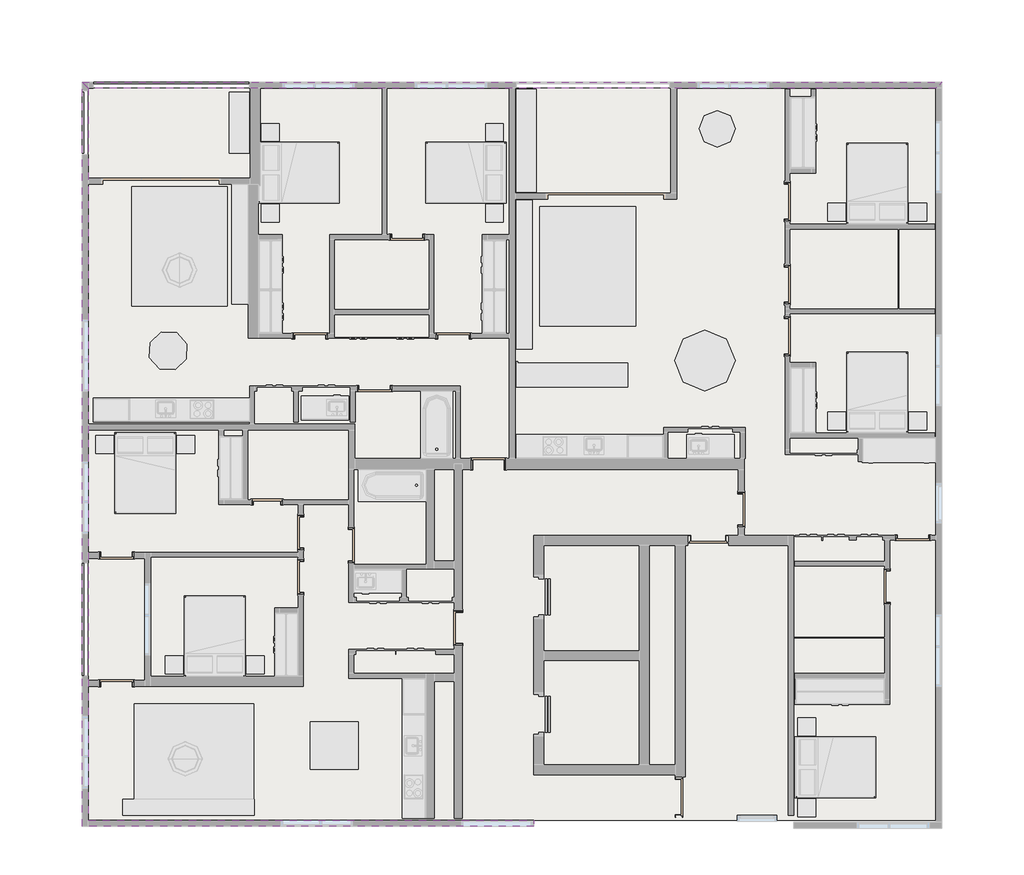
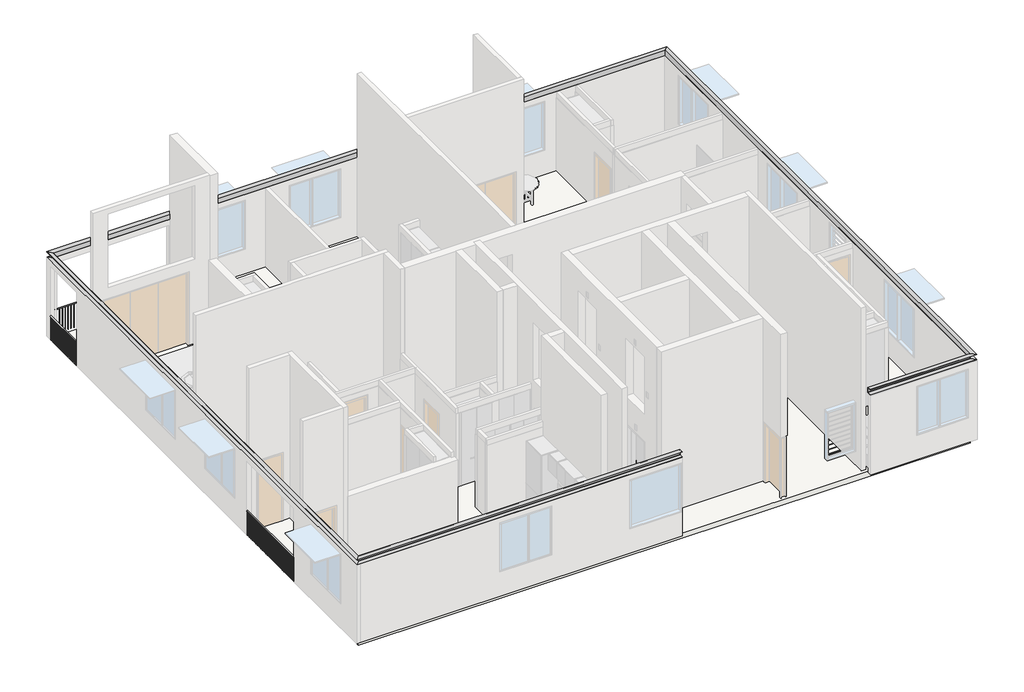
# One storey, part 4 of 5: 3 railings, 2 proxies, 1 slab.
"""IFC4 building model written with IfcOpenShell, lengths in millimetres."""

from ifc_helpers import new_model, si_unit, point, frame, frame_2d, origin, place, context, project, spatial, polyline, circle_curve, ellipse_curve, trimmed, segment, composite_curve, outline, extrude, faceted_brep, element, save
from ifc_brep_helpers import plane_surface, revolved_surface, advanced_brep

model = new_model("IFC4")

# Units and contexts
model_context = context("Model", 3, world=origin())
ifc_project = project(units=[si_unit("LENGTHUNIT", "METRE", prefix="MILLI")], contexts=[model_context])

# Site, building, storey
site = spatial("IfcSite", under=ifc_project)
building = spatial("IfcBuilding", under=site)
storey = spatial("IfcBuildingStorey", under=building, Name="9階", Elevation=54700.0)

# Proxies
placement = place(None, origin())
element("IfcBuildingElementProxy", 1, Name="Slab Edge_PFC'", ObjectType="Slab Edge_PFC'", at=placement, inside=storey, context=model_context, shape_type="AdvancedBrep", body=[
    advanced_brep(
    [(2519.6057353, 18560.0, 57800.0), (2519.6057353, 18560.0, 57600.0), (2369.6057353, 18710.0, 57600.0), (2369.6057353, 18710.0, 57612.0), (2501.6057353, 18578.0, 57612.0), (2513.6057353, 18566.0, 57624.0), (2513.6057353, 18566.0, 57776.0), (2501.6057353, 18578.0, 57788.0), (2369.6057353, 18710.0, 57788.0), (2369.6057353, 18710.0, 57800.0), (2519.6057353, 189.0898177, 57800.0), (2519.6057353, 189.0898177, 57600.0), (2369.6057353, 39.0898177, 57600.0), (2369.6057353, 39.0898177, 57612.0), (2501.6057353, 171.0898177, 57612.0), (2513.6057353, 183.0898177, 57624.0), (2513.6057353, 183.0898177, 57776.0), (2501.6057353, 171.0898177, 57788.0), (2369.6057353, 39.0898177, 57788.0), (2369.6057353, 39.0898177, 57800.0), (13694.6062665, 189.0898177, 57600.0), (13694.6062665, 189.0898177, 57800.0), (13694.6062665, 39.0898177, 57800.0), (13694.6062665, 39.0898177, 57788.0), (13694.6062665, 171.0898177, 57788.0), (13694.6062665, 183.0898177, 57776.0), (13694.6062665, 183.0898177, 57624.0), (13694.6062665, 171.0898177, 57612.0), (13694.6062665, 39.0898177, 57612.0), (13694.6062665, 39.0898177, 57600.0)],
    [
        (0, 1),
        (1, 2),
        (2, 3),
        (3, 4),
        (4, 5, ellipse_curve(frame((2501.6057353, 18578.0, 57624.0), z_axis=(-0.7071067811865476, -0.7071067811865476, 0.0), x_axis=(0.7071067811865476, -0.7071067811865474, 0.0)), 16.9705627, 12.0)),
        (5, 6),
        (6, 7, ellipse_curve(frame((2501.6057353, 18578.0, 57776.0), z_axis=(-0.7071067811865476, -0.7071067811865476, 0.0), x_axis=(0.7071067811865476, -0.7071067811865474, 0.0)), 16.9705627, 12.0)),
        (7, 8),
        (8, 9),
        (9, 0),
        (0, 10),
        (10, 11),
        (11, 1),
        (11, 12),
        (12, 2),
        (12, 13),
        (13, 3),
        (13, 14),
        (14, 4),
        (14, 15, ellipse_curve(frame((2501.6057353, 171.0898177, 57624.0), z_axis=(0.7071067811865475, -0.7071067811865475, 0.0), x_axis=(-0.7071067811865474, -0.7071067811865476, 0.0)), 16.9705627, 12.0)),
        (15, 5),
        (15, 16),
        (16, 6),
        (16, 17, ellipse_curve(frame((2501.6057353, 171.0898177, 57776.0), z_axis=(0.7071067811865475, -0.7071067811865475, 0.0), x_axis=(-0.7071067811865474, -0.7071067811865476, 0.0)), 16.9705627, 12.0)),
        (17, 7),
        (17, 18),
        (18, 8),
        (18, 19),
        (19, 9),
        (19, 10),
        (20, 21),
        (21, 22),
        (22, 23),
        (23, 24),
        (24, 25, circle_curve(frame((13694.6062665, 171.0898177, 57776.0), z_axis=(-1.0, 0.0, 0.0), x_axis=(0.0, -1.0, 0.0)), 12.0)),
        (25, 26),
        (26, 27, circle_curve(frame((13694.6062665, 171.0898177, 57624.0), z_axis=(-1.0, 0.0, 0.0), x_axis=(0.0, -1.0, 0.0)), 12.0)),
        (27, 28),
        (28, 29),
        (29, 20),
        (10, 21),
        (20, 11),
        (29, 12),
        (28, 13),
        (27, 14),
        (26, 15),
        (25, 16),
        (24, 17),
        (23, 18),
        (22, 19),
    ],
    [
        plane_surface(frame((2519.6057353, 18560.0, 57800.0), z_axis=(0.7071067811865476, 0.7071067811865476, 0.0), x_axis=(-0.7071067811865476, 0.7071067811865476, 0.0))),
        plane_surface(frame((2519.6057353, 18560.0, 57800.0), z_axis=(1.0, 0.0, 0.0), x_axis=(0.0, -1.0, 0.0))),
        plane_surface(frame((2519.6057353, 18560.0, 57600.0), z_axis=(0.0, 0.0, -1.0), x_axis=(0.0, -1.0, 0.0))),
        plane_surface(frame((2369.6057353, 18710.0, 57600.0), z_axis=(-1.0, 0.0, 0.0), x_axis=(0.0, -1.0, 0.0))),
        plane_surface(frame((2369.6057353, 18710.0, 57612.0), z_axis=(0.0, 0.0, 1.0), x_axis=(0.0, -1.0, 0.0))),
        revolved_surface(polyline([(2489.6057353, 159.08981773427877, 57624.0), (2489.6057353, 18589.999999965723, 57624.0)]), (2501.6057353, 18560.0, 57624.0), (0.0, -1.0, 0.0)),
        plane_surface(frame((2513.6057353, 18566.0, 57624.0), z_axis=(-1.0, 0.0, 0.0), x_axis=(0.0, -1.0, 0.0))),
        revolved_surface(polyline([(2489.6057353, 159.08981773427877, 57776.0), (2489.6057353, 18589.999999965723, 57776.0)]), (2501.6057353, 18560.0, 57776.0), (0.0, -1.0, 0.0)),
        plane_surface(frame((2501.6057353, 18578.0, 57788.0), z_axis=(0.0, 0.0, -1.0), x_axis=(0.0, -1.0, 0.0))),
        plane_surface(frame((2369.6057353, 18710.0, 57788.0), z_axis=(-1.0, 0.0, 0.0), x_axis=(0.0, -1.0, 0.0))),
        plane_surface(frame((2369.6057353, 18710.0, 57800.0), z_axis=(0.0, 0.0, 1.0), x_axis=(0.0, -1.0, 0.0))),
        plane_surface(frame((13694.6062665, 189.0898177, 57550.0), z_axis=(1.0, 0.0, 0.0), x_axis=(0.0, 1.0, 0.0))),
        plane_surface(frame((2519.6057353, 189.0898177, 57800.0), z_axis=(0.0, 1.0, 0.0), x_axis=(1.0, 0.0, 0.0))),
        plane_surface(frame((2519.6057353, 189.0898177, 57600.0), z_axis=(0.0, 0.0, -1.0), x_axis=(1.0, 0.0, 0.0))),
        plane_surface(frame((2369.6057353, 39.0898177, 57600.0), z_axis=(0.0, -1.0, 0.0), x_axis=(1.0, 0.0, 0.0))),
        plane_surface(frame((2369.6057353, 39.0898177, 57612.0), z_axis=(0.0, 0.0, 1.0), x_axis=(1.0, 0.0, 0.0))),
        revolved_surface(polyline([(13694.6062665, 159.0898177, 57624.0), (2489.6057353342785, 159.0898177, 57624.0)]), (2519.6057353, 171.0898177, 57624.0), (1.0, 0.0, 0.0)),
        plane_surface(frame((2513.6057353, 183.0898177, 57624.0), z_axis=(0.0, -1.0, 0.0), x_axis=(1.0, 0.0, 0.0))),
        revolved_surface(polyline([(13694.6062665, 159.0898177, 57776.0), (2489.6057353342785, 159.0898177, 57776.0)]), (2519.6057353, 171.0898177, 57776.0), (1.0, 0.0, 0.0)),
        plane_surface(frame((2501.6057353, 171.0898177, 57788.0), z_axis=(0.0, 0.0, -1.0), x_axis=(1.0, 0.0, 0.0))),
        plane_surface(frame((2369.6057353, 39.0898177, 57788.0), z_axis=(0.0, -1.0, 0.0), x_axis=(1.0, 0.0, 0.0))),
        plane_surface(frame((2369.6057353, 39.0898177, 57800.0), z_axis=(0.0, 0.0, 1.0), x_axis=(1.0, 0.0, 0.0))),
    ],
    [
        (0, [[1, 2, 3, 4, 5, 6, 7, 8, 9, 10]]),
        (1, [[-1, 11, 12, 13]]),
        (2, [[-2, -13, 14, 15]]),
        (3, [[-3, -15, 16, 17]]),
        (4, [[-4, -17, 18, 19]]),
        (5, [[-5, -19, 20, 21]]),
        (6, [[-6, -21, 22, 23]]),
        (7, [[-7, -23, 24, 25]]),
        (8, [[-8, -25, 26, 27]]),
        (9, [[-9, -27, 28, 29]]),
        (10, [[-10, -29, 30, -11]]),
        (11, [[31, 32, 33, 34, 35, 36, 37, 38, 39, 40]]),
        (12, [[-12, 41, -31, 42]]),
        (13, [[-14, -42, -40, 43]]),
        (14, [[-16, -43, -39, 44]]),
        (15, [[-18, -44, -38, 45]]),
        (16, [[-20, -45, -37, 46]]),
        (17, [[-22, -46, -36, 47]]),
        (18, [[-24, -47, -35, 48]]),
        (19, [[-26, -48, -34, 49]]),
        (20, [[-28, -49, -33, 50]]),
        (21, [[-30, -50, -32, -41]]),
    ],
),
    advanced_brep(
    [(23783.6171203, 18560.0, 57600.0), (23783.6171203, 18560.0, 57800.0), (23933.6171203, 18710.0, 57800.0), (23933.6171203, 18710.0, 57788.0), (23801.6171203, 18578.0, 57788.0), (23789.6171203, 18566.0, 57776.0), (23789.6171203, 18566.0, 57624.0), (23801.6171203, 18578.0, 57612.0), (23933.6171203, 18710.0, 57612.0), (23933.6171203, 18710.0, 57600.0), (23783.6171203, 189.0898177, 57600.0), (23783.6171203, 189.0898177, 57800.0), (23933.6171203, 39.0898177, 57600.0), (23933.6171203, 39.0898177, 57612.0), (23801.6171203, 171.0898177, 57612.0), (23789.6171203, 183.0898177, 57624.0), (23789.6171203, 183.0898177, 57776.0), (23801.6171203, 171.0898177, 57788.0), (23933.6171203, 39.0898177, 57788.0), (23933.6171203, 39.0898177, 57800.0), (20219.6062665, 189.0898177, 57800.0), (20219.6062665, 189.0898177, 57600.0), (20219.6062665, 39.0898177, 57600.0), (20219.6062665, 39.0898177, 57612.0), (20219.6062665, 171.0898177, 57612.0), (20219.6062665, 183.0898177, 57624.0), (20219.6062665, 183.0898177, 57776.0), (20219.6062665, 171.0898177, 57788.0), (20219.6062665, 39.0898177, 57788.0), (20219.6062665, 39.0898177, 57800.0)],
    [
        (0, 1),
        (1, 2),
        (2, 3),
        (3, 4),
        (4, 5, ellipse_curve(frame((23801.6171203, 18578.0, 57776.0), z_axis=(0.7071067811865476, -0.7071067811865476, 0.0), x_axis=(0.7071067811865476, 0.7071067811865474, 0.0)), 16.9705627, 12.0)),
        (5, 6),
        (6, 7, ellipse_curve(frame((23801.6171203, 18578.0, 57624.0), z_axis=(0.7071067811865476, -0.7071067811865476, 0.0), x_axis=(0.7071067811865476, 0.7071067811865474, 0.0)), 16.9705627, 12.0)),
        (7, 8),
        (8, 9),
        (9, 0),
        (10, 11),
        (11, 1),
        (0, 10),
        (12, 10),
        (9, 12),
        (13, 12),
        (8, 13),
        (14, 13),
        (7, 14),
        (15, 14, ellipse_curve(frame((23801.6171203, 171.0898177, 57624.0), z_axis=(-0.7071067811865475, -0.7071067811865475, 0.0), x_axis=(-0.7071067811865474, 0.7071067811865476, 0.0)), 16.9705627, 12.0)),
        (6, 15),
        (16, 15),
        (5, 16),
        (17, 16, ellipse_curve(frame((23801.6171203, 171.0898177, 57776.0), z_axis=(-0.7071067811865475, -0.7071067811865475, 0.0), x_axis=(-0.7071067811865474, 0.7071067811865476, 0.0)), 16.9705627, 12.0)),
        (4, 17),
        (18, 17),
        (3, 18),
        (19, 18),
        (2, 19),
        (11, 19),
        (20, 21),
        (21, 22),
        (22, 23),
        (23, 24),
        (24, 25, circle_curve(frame((20219.6062665, 171.0898177, 57624.0), z_axis=(1.0, 0.0, 0.0), x_axis=(0.0, -1.0, 0.0)), 12.0)),
        (25, 26),
        (26, 27, circle_curve(frame((20219.6062665, 171.0898177, 57776.0), z_axis=(1.0, 0.0, 0.0), x_axis=(0.0, -1.0, 0.0)), 12.0)),
        (27, 28),
        (28, 29),
        (29, 20),
        (10, 21),
        (20, 11),
        (12, 22),
        (13, 23),
        (14, 24),
        (15, 25),
        (16, 26),
        (17, 27),
        (18, 28),
        (19, 29),
    ],
    [
        plane_surface(frame((23783.6171203, 18560.0, 57800.0), z_axis=(-0.7071067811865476, 0.7071067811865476, 0.0), x_axis=(-0.7071067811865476, -0.7071067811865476, 0.0))),
        plane_surface(frame((23783.6171203, 189.0898177, 57800.0), z_axis=(-1.0, 0.0, 0.0), x_axis=(0.0, 1.0, 0.0))),
        plane_surface(frame((23783.6171203, 189.0898177, 57600.0), z_axis=(0.0, 0.0, -1.0), x_axis=(0.0, 1.0, 0.0))),
        plane_surface(frame((23933.6171203, 39.0898177, 57600.0), z_axis=(1.0, 0.0, 0.0), x_axis=(0.0, 1.0, 0.0))),
        plane_surface(frame((23933.6171203, 39.0898177, 57612.0), z_axis=(0.0, 0.0, 1.0), x_axis=(0.0, 1.0, 0.0))),
        revolved_surface(polyline([(23813.6171203, 18589.999999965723, 57624.0), (23813.6171203, 159.0898177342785, 57624.0)]), (23801.6171203, 189.0898177, 57624.0), (0.0, 1.0, 0.0)),
        plane_surface(frame((23789.6171203, 183.0898177, 57624.0), z_axis=(1.0, 0.0, 0.0), x_axis=(0.0, 1.0, 0.0))),
        revolved_surface(polyline([(23813.6171203, 18589.999999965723, 57776.0), (23813.6171203, 159.0898177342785, 57776.0)]), (23801.6171203, 189.0898177, 57776.0), (0.0, 1.0, 0.0)),
        plane_surface(frame((23801.6171203, 171.0898177, 57788.0), z_axis=(0.0, 0.0, -1.0), x_axis=(0.0, 1.0, 0.0))),
        plane_surface(frame((23933.6171203, 39.0898177, 57788.0), z_axis=(1.0, 0.0, 0.0), x_axis=(0.0, 1.0, 0.0))),
        plane_surface(frame((23933.6171203, 39.0898177, 57800.0), z_axis=(0.0, 0.0, 1.0), x_axis=(0.0, 1.0, 0.0))),
        plane_surface(frame((20219.6062665, 189.0898177, 57550.0), z_axis=(-1.0, 0.0, 0.0), x_axis=(0.0, 1.0, 0.0))),
        plane_surface(frame((20219.6062665, 189.0898177, 57800.0), z_axis=(0.0, 1.0, 0.0), x_axis=(1.0, 0.0, 0.0))),
        plane_surface(frame((20219.6062665, 189.0898177, 57600.0), z_axis=(0.0, 0.0, -1.0), x_axis=(1.0, 0.0, 0.0))),
        plane_surface(frame((20219.6062665, 39.0898177, 57600.0), z_axis=(0.0, -1.0, 0.0), x_axis=(1.0, 0.0, 0.0))),
        plane_surface(frame((20219.6062665, 39.0898177, 57612.0), z_axis=(0.0, 0.0, 1.0), x_axis=(1.0, 0.0, 0.0))),
        revolved_surface(polyline([(23813.617120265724, 159.0898177, 57624.0), (20219.6062665, 159.0898177, 57624.0)]), (20219.6062665, 171.0898177, 57624.0), (1.0, 0.0, 0.0)),
        plane_surface(frame((20219.6062665, 183.0898177, 57624.0), z_axis=(0.0, -1.0, 0.0), x_axis=(1.0, 0.0, 0.0))),
        revolved_surface(polyline([(23813.617120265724, 159.0898177, 57776.0), (20219.6062665, 159.0898177, 57776.0)]), (20219.6062665, 171.0898177, 57776.0), (1.0, 0.0, 0.0)),
        plane_surface(frame((20219.6062665, 171.0898177, 57788.0), z_axis=(0.0, 0.0, -1.0), x_axis=(1.0, 0.0, 0.0))),
        plane_surface(frame((20219.6062665, 39.0898177, 57788.0), z_axis=(0.0, -1.0, 0.0), x_axis=(1.0, 0.0, 0.0))),
        plane_surface(frame((20219.6062665, 39.0898177, 57800.0), z_axis=(0.0, 0.0, 1.0), x_axis=(1.0, 0.0, 0.0))),
    ],
    [
        (0, [[1, 2, 3, 4, 5, 6, 7, 8, 9, 10]]),
        (1, [[11, 12, -1, 13]]),
        (2, [[14, -13, -10, 15]]),
        (3, [[16, -15, -9, 17]]),
        (4, [[18, -17, -8, 19]]),
        (5, [[20, -19, -7, 21]]),
        (6, [[22, -21, -6, 23]]),
        (7, [[24, -23, -5, 25]]),
        (8, [[26, -25, -4, 27]]),
        (9, [[28, -27, -3, 29]]),
        (10, [[30, -29, -2, -12]]),
        (11, [[31, 32, 33, 34, 35, 36, 37, 38, 39, 40]]),
        (12, [[-11, 41, -31, 42]]),
        (13, [[-14, 43, -32, -41]]),
        (14, [[-16, 44, -33, -43]]),
        (15, [[-18, 45, -34, -44]]),
        (16, [[-20, 46, -35, -45]]),
        (17, [[-22, 47, -36, -46]]),
        (18, [[-24, 48, -37, -47]]),
        (19, [[-26, 49, -38, -48]]),
        (20, [[-28, 50, -39, -49]]),
        (21, [[-30, -42, -40, -50]]),
    ],
),
])
element("IfcBuildingElementProxy", 2, Name="Slab Edge_PFC'", ObjectType="Slab Edge_PFC'", at=placement, inside=storey, context=model_context, shape_type="AdvancedBrep", body=[
    advanced_brep(
    [(23783.6171203, 18560.0, 57800.0), (23783.6171203, 18560.0, 57600.0), (23933.6171203, 18710.0, 57600.0), (23933.6171203, 18710.0, 57612.0), (23801.6171203, 18578.0, 57612.0), (23789.6171203, 18566.0, 57624.0), (23789.6171203, 18566.0, 57776.0), (23801.6171203, 18578.0, 57788.0), (23933.6171203, 18710.0, 57788.0), (23933.6171203, 18710.0, 57800.0), (2519.6057353, 18560.0, 57800.0), (2369.6057353, 18710.0, 57800.0), (2369.6057353, 18710.0, 57788.0), (2501.6057353, 18578.0, 57788.0), (2513.6057353, 18566.0, 57776.0), (2513.6057353, 18566.0, 57624.0), (2501.6057353, 18578.0, 57612.0), (2369.6057353, 18710.0, 57612.0), (2369.6057353, 18710.0, 57600.0), (2519.6057353, 18560.0, 57600.0)],
    [
        (0, 1),
        (1, 2),
        (2, 3),
        (3, 4),
        (4, 5, ellipse_curve(frame((23801.6171203, 18578.0, 57624.0), z_axis=(-0.7071067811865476, 0.7071067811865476, 0.0), x_axis=(-0.7071067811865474, -0.7071067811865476, 0.0)), 16.9705627, 12.0)),
        (5, 6),
        (6, 7, ellipse_curve(frame((23801.6171203, 18578.0, 57776.0), z_axis=(-0.7071067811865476, 0.7071067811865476, 0.0), x_axis=(-0.7071067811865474, -0.7071067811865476, 0.0)), 16.9705627, 12.0)),
        (7, 8),
        (8, 9),
        (9, 0),
        (10, 11),
        (11, 12),
        (12, 13),
        (13, 14, ellipse_curve(frame((2501.6057353, 18578.0, 57776.0), z_axis=(0.7071067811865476, 0.7071067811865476, 0.0), x_axis=(-0.7071067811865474, 0.7071067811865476, 0.0)), 16.9705627, 12.0)),
        (14, 15),
        (15, 16, ellipse_curve(frame((2501.6057353, 18578.0, 57624.0), z_axis=(0.7071067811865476, 0.7071067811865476, 0.0), x_axis=(-0.7071067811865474, 0.7071067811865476, 0.0)), 16.9705627, 12.0)),
        (16, 17),
        (17, 18),
        (18, 19),
        (19, 10),
        (0, 10),
        (19, 1),
        (18, 2),
        (17, 3),
        (16, 4),
        (15, 5),
        (14, 6),
        (13, 7),
        (12, 8),
        (11, 9),
    ],
    [
        plane_surface(frame((23783.6171203, 18560.0, 57800.0), z_axis=(0.7071067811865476, -0.7071067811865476, 0.0), x_axis=(0.7071067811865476, 0.7071067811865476, 0.0))),
        plane_surface(frame((2519.6057353, 18560.0, 57800.0), z_axis=(-0.7071067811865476, -0.7071067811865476, 0.0), x_axis=(0.7071067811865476, -0.7071067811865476, 0.0))),
        plane_surface(frame((23783.6171203, 18560.0, 57800.0), z_axis=(0.0, -1.0, 0.0), x_axis=(-1.0, 0.0, 0.0))),
        plane_surface(frame((23783.6171203, 18560.0, 57600.0), z_axis=(0.0, 0.0, -1.0), x_axis=(-1.0, 0.0, 0.0))),
        plane_surface(frame((23933.6171203, 18710.0, 57600.0), z_axis=(0.0, 1.0, 0.0), x_axis=(-1.0, 0.0, 0.0))),
        plane_surface(frame((23933.6171203, 18710.0, 57612.0), z_axis=(0.0, 0.0, 1.0), x_axis=(-1.0, 0.0, 0.0))),
        revolved_surface(polyline([(2489.6057353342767, 18590.0, 57624.0), (23813.617120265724, 18590.0, 57624.0)]), (23783.6171203, 18578.0, 57624.0), (-1.0, 0.0, 0.0)),
        plane_surface(frame((23789.6171203, 18566.0, 57624.0), z_axis=(0.0, 1.0, 0.0), x_axis=(-1.0, 0.0, 0.0))),
        revolved_surface(polyline([(2489.6057353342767, 18590.0, 57776.0), (23813.617120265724, 18590.0, 57776.0)]), (23783.6171203, 18578.0, 57776.0), (-1.0, 0.0, 0.0)),
        plane_surface(frame((23801.6171203, 18578.0, 57788.0), z_axis=(0.0, 0.0, -1.0), x_axis=(-1.0, 0.0, 0.0))),
        plane_surface(frame((23933.6171203, 18710.0, 57788.0), z_axis=(0.0, 1.0, 0.0), x_axis=(-1.0, 0.0, 0.0))),
        plane_surface(frame((23933.6171203, 18710.0, 57800.0), z_axis=(0.0, 0.0, 1.0), x_axis=(-1.0, 0.0, 0.0))),
    ],
    [
        (0, [[1, 2, 3, 4, 5, 6, 7, 8, 9, 10]]),
        (1, [[11, 12, 13, 14, 15, 16, 17, 18, 19, 20]]),
        (2, [[-1, 21, -20, 22]]),
        (3, [[-2, -22, -19, 23]]),
        (4, [[-3, -23, -18, 24]]),
        (5, [[-4, -24, -17, 25]]),
        (6, [[-5, -25, -16, 26]]),
        (7, [[-6, -26, -15, 27]]),
        (8, [[-7, -27, -14, 28]]),
        (9, [[-8, -28, -13, 29]]),
        (10, [[-9, -29, -12, 30]]),
        (11, [[-10, -30, -11, -21]]),
    ],
),
])

# Railings
element("IfcRailing", 3, ObjectType="900mm", at=placement, inside=storey, context=model_context, shape_type="SweptSolid", body=[
    extrude(outline(composite_curve([segment(trimmed(circle_curve(frame_2d((18700.0, 55580.0)), 20.0), [point((18680.0, 55580.0))], [point((18720.0, 55580.0))], False, "CARTESIAN"), True, "CONTINUOUS"), segment(trimmed(circle_curve(frame_2d((18700.0, 55580.0)), 20.0), [point((18720.0, 55580.0))], [point((18680.0, 55580.0))], False, "CARTESIAN"), True, "CONTINUOUS")], self_intersect=False)), frame((2614.6057353, 0.0, 0.0), z_axis=(1.0, 0.0, 0.0), x_axis=(0.0, 1.0, 0.0)), (0.0, 0.0, 1.0), 3940.0588639),
    extrude(outline(polyline([(6509.6057353, 18695.0), (6509.6057353, 18705.0), (6519.6057353, 18705.0), (6519.6057353, 18695.0), (6509.6057353, 18695.0)])), frame((0.0, 0.0, 54700.0), z_axis=(0.0, 0.0, 1.0), x_axis=(1.0, 0.0, 0.0)), (0.0, 0.0, 1.0), 860.0),
    extrude(outline(polyline([(6409.6057353, 18695.0), (6409.6057353, 18705.0), (6419.6057353, 18705.0), (6419.6057353, 18695.0), (6409.6057353, 18695.0)])), frame((0.0, 0.0, 54700.0), z_axis=(0.0, 0.0, 1.0), x_axis=(1.0, 0.0, 0.0)), (0.0, 0.0, 1.0), 860.0),
    extrude(outline(polyline([(6309.6057353, 18695.0), (6309.6057353, 18705.0), (6319.6057353, 18705.0), (6319.6057353, 18695.0), (6309.6057353, 18695.0)])), frame((0.0, 0.0, 54700.0), z_axis=(0.0, 0.0, 1.0), x_axis=(1.0, 0.0, 0.0)), (0.0, 0.0, 1.0), 860.0),
    extrude(outline(polyline([(6209.6057353, 18695.0), (6209.6057353, 18705.0), (6219.6057353, 18705.0), (6219.6057353, 18695.0), (6209.6057353, 18695.0)])), frame((0.0, 0.0, 54700.0), z_axis=(0.0, 0.0, 1.0), x_axis=(1.0, 0.0, 0.0)), (0.0, 0.0, 1.0), 860.0),
    extrude(outline(polyline([(6109.6057353, 18695.0), (6109.6057353, 18705.0), (6119.6057353, 18705.0), (6119.6057353, 18695.0), (6109.6057353, 18695.0)])), frame((0.0, 0.0, 54700.0), z_axis=(0.0, 0.0, 1.0), x_axis=(1.0, 0.0, 0.0)), (0.0, 0.0, 1.0), 860.0),
    extrude(outline(polyline([(6009.6057353, 18695.0), (6009.6057353, 18705.0), (6019.6057353, 18705.0), (6019.6057353, 18695.0), (6009.6057353, 18695.0)])), frame((0.0, 0.0, 54700.0), z_axis=(0.0, 0.0, 1.0), x_axis=(1.0, 0.0, 0.0)), (0.0, 0.0, 1.0), 860.0),
    extrude(outline(polyline([(5909.6057353, 18695.0), (5909.6057353, 18705.0), (5919.6057353, 18705.0), (5919.6057353, 18695.0), (5909.6057353, 18695.0)])), frame((0.0, 0.0, 54700.0), z_axis=(0.0, 0.0, 1.0), x_axis=(1.0, 0.0, 0.0)), (0.0, 0.0, 1.0), 860.0),
    extrude(outline(polyline([(5809.6057353, 18695.0), (5809.6057353, 18705.0), (5819.6057353, 18705.0), (5819.6057353, 18695.0), (5809.6057353, 18695.0)])), frame((0.0, 0.0, 54700.0), z_axis=(0.0, 0.0, 1.0), x_axis=(1.0, 0.0, 0.0)), (0.0, 0.0, 1.0), 860.0),
    extrude(outline(polyline([(5709.6057353, 18695.0), (5709.6057353, 18705.0), (5719.6057353, 18705.0), (5719.6057353, 18695.0), (5709.6057353, 18695.0)])), frame((0.0, 0.0, 54700.0), z_axis=(0.0, 0.0, 1.0), x_axis=(1.0, 0.0, 0.0)), (0.0, 0.0, 1.0), 860.0),
    extrude(outline(polyline([(5609.6057353, 18695.0), (5609.6057353, 18705.0), (5619.6057353, 18705.0), (5619.6057353, 18695.0), (5609.6057353, 18695.0)])), frame((0.0, 0.0, 54700.0), z_axis=(0.0, 0.0, 1.0), x_axis=(1.0, 0.0, 0.0)), (0.0, 0.0, 1.0), 860.0),
    extrude(outline(polyline([(5509.6057353, 18695.0), (5509.6057353, 18705.0), (5519.6057353, 18705.0), (5519.6057353, 18695.0), (5509.6057353, 18695.0)])), frame((0.0, 0.0, 54700.0), z_axis=(0.0, 0.0, 1.0), x_axis=(1.0, 0.0, 0.0)), (0.0, 0.0, 1.0), 860.0),
    extrude(outline(polyline([(5409.6057353, 18695.0), (5409.6057353, 18705.0), (5419.6057353, 18705.0), (5419.6057353, 18695.0), (5409.6057353, 18695.0)])), frame((0.0, 0.0, 54700.0), z_axis=(0.0, 0.0, 1.0), x_axis=(1.0, 0.0, 0.0)), (0.0, 0.0, 1.0), 860.0),
    extrude(outline(polyline([(5309.6057353, 18695.0), (5309.6057353, 18705.0), (5319.6057353, 18705.0), (5319.6057353, 18695.0), (5309.6057353, 18695.0)])), frame((0.0, 0.0, 54700.0), z_axis=(0.0, 0.0, 1.0), x_axis=(1.0, 0.0, 0.0)), (0.0, 0.0, 1.0), 860.0),
    extrude(outline(polyline([(5209.6057353, 18695.0), (5209.6057353, 18705.0), (5219.6057353, 18705.0), (5219.6057353, 18695.0), (5209.6057353, 18695.0)])), frame((0.0, 0.0, 54700.0), z_axis=(0.0, 0.0, 1.0), x_axis=(1.0, 0.0, 0.0)), (0.0, 0.0, 1.0), 860.0),
    extrude(outline(polyline([(5109.6057353, 18695.0), (5109.6057353, 18705.0), (5119.6057353, 18705.0), (5119.6057353, 18695.0), (5109.6057353, 18695.0)])), frame((0.0, 0.0, 54700.0), z_axis=(0.0, 0.0, 1.0), x_axis=(1.0, 0.0, 0.0)), (0.0, 0.0, 1.0), 860.0),
    extrude(outline(polyline([(5009.6057353, 18695.0), (5009.6057353, 18705.0), (5019.6057353, 18705.0), (5019.6057353, 18695.0), (5009.6057353, 18695.0)])), frame((0.0, 0.0, 54700.0), z_axis=(0.0, 0.0, 1.0), x_axis=(1.0, 0.0, 0.0)), (0.0, 0.0, 1.0), 860.0),
    extrude(outline(polyline([(4909.6057353, 18695.0), (4909.6057353, 18705.0), (4919.6057353, 18705.0), (4919.6057353, 18695.0), (4909.6057353, 18695.0)])), frame((0.0, 0.0, 54700.0), z_axis=(0.0, 0.0, 1.0), x_axis=(1.0, 0.0, 0.0)), (0.0, 0.0, 1.0), 860.0),
    extrude(outline(polyline([(4809.6057353, 18695.0), (4809.6057353, 18705.0), (4819.6057353, 18705.0), (4819.6057353, 18695.0), (4809.6057353, 18695.0)])), frame((0.0, 0.0, 54700.0), z_axis=(0.0, 0.0, 1.0), x_axis=(1.0, 0.0, 0.0)), (0.0, 0.0, 1.0), 860.0),
    extrude(outline(polyline([(4709.6057353, 18695.0), (4709.6057353, 18705.0), (4719.6057353, 18705.0), (4719.6057353, 18695.0), (4709.6057353, 18695.0)])), frame((0.0, 0.0, 54700.0), z_axis=(0.0, 0.0, 1.0), x_axis=(1.0, 0.0, 0.0)), (0.0, 0.0, 1.0), 860.0),
    extrude(outline(polyline([(4609.6057353, 18695.0), (4609.6057353, 18705.0), (4619.6057353, 18705.0), (4619.6057353, 18695.0), (4609.6057353, 18695.0)])), frame((0.0, 0.0, 54700.0), z_axis=(0.0, 0.0, 1.0), x_axis=(1.0, 0.0, 0.0)), (0.0, 0.0, 1.0), 860.0),
    extrude(outline(polyline([(4509.6057353, 18695.0), (4509.6057353, 18705.0), (4519.6057353, 18705.0), (4519.6057353, 18695.0), (4509.6057353, 18695.0)])), frame((0.0, 0.0, 54700.0), z_axis=(0.0, 0.0, 1.0), x_axis=(1.0, 0.0, 0.0)), (0.0, 0.0, 1.0), 860.0),
    extrude(outline(polyline([(4409.6057353, 18695.0), (4409.6057353, 18705.0), (4419.6057353, 18705.0), (4419.6057353, 18695.0), (4409.6057353, 18695.0)])), frame((0.0, 0.0, 54700.0), z_axis=(0.0, 0.0, 1.0), x_axis=(1.0, 0.0, 0.0)), (0.0, 0.0, 1.0), 860.0),
    extrude(outline(polyline([(4309.6057353, 18695.0), (4309.6057353, 18705.0), (4319.6057353, 18705.0), (4319.6057353, 18695.0), (4309.6057353, 18695.0)])), frame((0.0, 0.0, 54700.0), z_axis=(0.0, 0.0, 1.0), x_axis=(1.0, 0.0, 0.0)), (0.0, 0.0, 1.0), 860.0),
    extrude(outline(polyline([(4209.6057353, 18695.0), (4209.6057353, 18705.0), (4219.6057353, 18705.0), (4219.6057353, 18695.0), (4209.6057353, 18695.0)])), frame((0.0, 0.0, 54700.0), z_axis=(0.0, 0.0, 1.0), x_axis=(1.0, 0.0, 0.0)), (0.0, 0.0, 1.0), 860.0),
    extrude(outline(polyline([(4109.6057353, 18695.0), (4109.6057353, 18705.0), (4119.6057353, 18705.0), (4119.6057353, 18695.0), (4109.6057353, 18695.0)])), frame((0.0, 0.0, 54700.0), z_axis=(0.0, 0.0, 1.0), x_axis=(1.0, 0.0, 0.0)), (0.0, 0.0, 1.0), 860.0),
    extrude(outline(polyline([(4009.6057353, 18695.0), (4009.6057353, 18705.0), (4019.6057353, 18705.0), (4019.6057353, 18695.0), (4009.6057353, 18695.0)])), frame((0.0, 0.0, 54700.0), z_axis=(0.0, 0.0, 1.0), x_axis=(1.0, 0.0, 0.0)), (0.0, 0.0, 1.0), 860.0),
    extrude(outline(polyline([(3909.6057353, 18695.0), (3909.6057353, 18705.0), (3919.6057353, 18705.0), (3919.6057353, 18695.0), (3909.6057353, 18695.0)])), frame((0.0, 0.0, 54700.0), z_axis=(0.0, 0.0, 1.0), x_axis=(1.0, 0.0, 0.0)), (0.0, 0.0, 1.0), 860.0),
    extrude(outline(polyline([(3809.6057353, 18695.0), (3809.6057353, 18705.0), (3819.6057353, 18705.0), (3819.6057353, 18695.0), (3809.6057353, 18695.0)])), frame((0.0, 0.0, 54700.0), z_axis=(0.0, 0.0, 1.0), x_axis=(1.0, 0.0, 0.0)), (0.0, 0.0, 1.0), 860.0),
    extrude(outline(polyline([(3709.6057353, 18695.0), (3709.6057353, 18705.0), (3719.6057353, 18705.0), (3719.6057353, 18695.0), (3709.6057353, 18695.0)])), frame((0.0, 0.0, 54700.0), z_axis=(0.0, 0.0, 1.0), x_axis=(1.0, 0.0, 0.0)), (0.0, 0.0, 1.0), 860.0),
    extrude(outline(polyline([(3609.6057353, 18695.0), (3609.6057353, 18705.0), (3619.6057353, 18705.0), (3619.6057353, 18695.0), (3609.6057353, 18695.0)])), frame((0.0, 0.0, 54700.0), z_axis=(0.0, 0.0, 1.0), x_axis=(1.0, 0.0, 0.0)), (0.0, 0.0, 1.0), 860.0),
    extrude(outline(polyline([(3509.6057353, 18695.0), (3509.6057353, 18705.0), (3519.6057353, 18705.0), (3519.6057353, 18695.0), (3509.6057353, 18695.0)])), frame((0.0, 0.0, 54700.0), z_axis=(0.0, 0.0, 1.0), x_axis=(1.0, 0.0, 0.0)), (0.0, 0.0, 1.0), 860.0),
    extrude(outline(polyline([(3409.6057353, 18695.0), (3409.6057353, 18705.0), (3419.6057353, 18705.0), (3419.6057353, 18695.0), (3409.6057353, 18695.0)])), frame((0.0, 0.0, 54700.0), z_axis=(0.0, 0.0, 1.0), x_axis=(1.0, 0.0, 0.0)), (0.0, 0.0, 1.0), 860.0),
    extrude(outline(polyline([(3309.6057353, 18695.0), (3309.6057353, 18705.0), (3319.6057353, 18705.0), (3319.6057353, 18695.0), (3309.6057353, 18695.0)])), frame((0.0, 0.0, 54700.0), z_axis=(0.0, 0.0, 1.0), x_axis=(1.0, 0.0, 0.0)), (0.0, 0.0, 1.0), 860.0),
    extrude(outline(polyline([(3209.6057353, 18695.0), (3209.6057353, 18705.0), (3219.6057353, 18705.0), (3219.6057353, 18695.0), (3209.6057353, 18695.0)])), frame((0.0, 0.0, 54700.0), z_axis=(0.0, 0.0, 1.0), x_axis=(1.0, 0.0, 0.0)), (0.0, 0.0, 1.0), 860.0),
    extrude(outline(polyline([(3109.6057353, 18695.0), (3109.6057353, 18705.0), (3119.6057353, 18705.0), (3119.6057353, 18695.0), (3109.6057353, 18695.0)])), frame((0.0, 0.0, 54700.0), z_axis=(0.0, 0.0, 1.0), x_axis=(1.0, 0.0, 0.0)), (0.0, 0.0, 1.0), 860.0),
    extrude(outline(polyline([(3009.6057353, 18695.0), (3009.6057353, 18705.0), (3019.6057353, 18705.0), (3019.6057353, 18695.0), (3009.6057353, 18695.0)])), frame((0.0, 0.0, 54700.0), z_axis=(0.0, 0.0, 1.0), x_axis=(1.0, 0.0, 0.0)), (0.0, 0.0, 1.0), 860.0),
    extrude(outline(polyline([(2909.6057353, 18695.0), (2909.6057353, 18705.0), (2919.6057353, 18705.0), (2919.6057353, 18695.0), (2909.6057353, 18695.0)])), frame((0.0, 0.0, 54700.0), z_axis=(0.0, 0.0, 1.0), x_axis=(1.0, 0.0, 0.0)), (0.0, 0.0, 1.0), 860.0),
    extrude(outline(polyline([(2809.6057353, 18695.0), (2809.6057353, 18705.0), (2819.6057353, 18705.0), (2819.6057353, 18695.0), (2809.6057353, 18695.0)])), frame((0.0, 0.0, 54700.0), z_axis=(0.0, 0.0, 1.0), x_axis=(1.0, 0.0, 0.0)), (0.0, 0.0, 1.0), 860.0),
    extrude(outline(polyline([(2709.6057353, 18695.0), (2709.6057353, 18705.0), (2719.6057353, 18705.0), (2719.6057353, 18695.0), (2709.6057353, 18695.0)])), frame((0.0, 0.0, 54700.0), z_axis=(0.0, 0.0, 1.0), x_axis=(1.0, 0.0, 0.0)), (0.0, 0.0, 1.0), 860.0),
    extrude(outline(polyline([(6539.6645991, 18695.0), (6539.6645991, 18705.0), (6549.6645991, 18705.0), (6549.6645991, 18695.0), (6539.6645991, 18695.0)])), frame((0.0, 0.0, 54700.0), z_axis=(0.0, 0.0, 1.0), x_axis=(1.0, 0.0, 0.0)), (0.0, 0.0, 1.0), 860.0),
    extrude(outline(polyline([(2619.6057353, 18695.0), (2619.6057353, 18705.0), (2629.6057353, 18705.0), (2629.6057353, 18695.0), (2619.6057353, 18695.0)])), frame((0.0, 0.0, 54700.0), z_axis=(0.0, 0.0, 1.0), x_axis=(1.0, 0.0, 0.0)), (0.0, 0.0, 1.0), 860.0),
])
element("IfcRailing", 4, ObjectType="900mm", at=placement, inside=storey, context=model_context, shape_type="SweptSolid", body=[
    extrude(outline(composite_curve([segment(trimmed(circle_curve(frame_2d((55580.0, 2379.6057353)), 20.0), [point((55580.0, 2399.6057353))], [point((55580.0, 2359.6057353))], False, "CARTESIAN"), True, "CONTINUOUS"), segment(trimmed(circle_curve(frame_2d((55580.0, 2379.6057353)), 20.0), [point((55580.0, 2359.6057353))], [point((55580.0, 2399.6057353))], False, "CARTESIAN"), True, "CONTINUOUS")], self_intersect=False)), frame((0.0, 3816.2680774, 0.0), z_axis=(0.0, 1.0, 0.0), x_axis=(0.0, 0.0, 1.0)), (0.0, 0.0, 1.0), 2834.048622),
    extrude(outline(polyline([(2384.6057353, 6611.2680774), (2374.6057353, 6611.2680774), (2374.6057353, 6621.2680774), (2384.6057353, 6621.2680774), (2384.6057353, 6611.2680774)])), frame((0.0, 0.0, 54700.0), z_axis=(0.0, 0.0, 1.0), x_axis=(1.0, 0.0, 0.0)), (0.0, 0.0, 1.0), 860.0),
    extrude(outline(polyline([(2384.6057353, 6511.2680774), (2374.6057353, 6511.2680774), (2374.6057353, 6521.2680774), (2384.6057353, 6521.2680774), (2384.6057353, 6511.2680774)])), frame((0.0, 0.0, 54700.0), z_axis=(0.0, 0.0, 1.0), x_axis=(1.0, 0.0, 0.0)), (0.0, 0.0, 1.0), 860.0),
    extrude(outline(polyline([(2384.6057353, 6411.2680774), (2374.6057353, 6411.2680774), (2374.6057353, 6421.2680774), (2384.6057353, 6421.2680774), (2384.6057353, 6411.2680774)])), frame((0.0, 0.0, 54700.0), z_axis=(0.0, 0.0, 1.0), x_axis=(1.0, 0.0, 0.0)), (0.0, 0.0, 1.0), 860.0),
    extrude(outline(polyline([(2384.6057353, 6311.2680774), (2374.6057353, 6311.2680774), (2374.6057353, 6321.2680774), (2384.6057353, 6321.2680774), (2384.6057353, 6311.2680774)])), frame((0.0, 0.0, 54700.0), z_axis=(0.0, 0.0, 1.0), x_axis=(1.0, 0.0, 0.0)), (0.0, 0.0, 1.0), 860.0),
    extrude(outline(polyline([(2384.6057353, 6211.2680774), (2374.6057353, 6211.2680774), (2374.6057353, 6221.2680774), (2384.6057353, 6221.2680774), (2384.6057353, 6211.2680774)])), frame((0.0, 0.0, 54700.0), z_axis=(0.0, 0.0, 1.0), x_axis=(1.0, 0.0, 0.0)), (0.0, 0.0, 1.0), 860.0),
    extrude(outline(polyline([(2384.6057353, 6111.2680774), (2374.6057353, 6111.2680774), (2374.6057353, 6121.2680774), (2384.6057353, 6121.2680774), (2384.6057353, 6111.2680774)])), frame((0.0, 0.0, 54700.0), z_axis=(0.0, 0.0, 1.0), x_axis=(1.0, 0.0, 0.0)), (0.0, 0.0, 1.0), 860.0),
    extrude(outline(polyline([(2384.6057353, 6011.2680774), (2374.6057353, 6011.2680774), (2374.6057353, 6021.2680774), (2384.6057353, 6021.2680774), (2384.6057353, 6011.2680774)])), frame((0.0, 0.0, 54700.0), z_axis=(0.0, 0.0, 1.0), x_axis=(1.0, 0.0, 0.0)), (0.0, 0.0, 1.0), 860.0),
    extrude(outline(polyline([(2384.6057353, 5911.2680774), (2374.6057353, 5911.2680774), (2374.6057353, 5921.2680774), (2384.6057353, 5921.2680774), (2384.6057353, 5911.2680774)])), frame((0.0, 0.0, 54700.0), z_axis=(0.0, 0.0, 1.0), x_axis=(1.0, 0.0, 0.0)), (0.0, 0.0, 1.0), 860.0),
    extrude(outline(polyline([(2384.6057353, 5811.2680774), (2374.6057353, 5811.2680774), (2374.6057353, 5821.2680774), (2384.6057353, 5821.2680774), (2384.6057353, 5811.2680774)])), frame((0.0, 0.0, 54700.0), z_axis=(0.0, 0.0, 1.0), x_axis=(1.0, 0.0, 0.0)), (0.0, 0.0, 1.0), 860.0),
    extrude(outline(polyline([(2384.6057353, 5711.2680774), (2374.6057353, 5711.2680774), (2374.6057353, 5721.2680774), (2384.6057353, 5721.2680774), (2384.6057353, 5711.2680774)])), frame((0.0, 0.0, 54700.0), z_axis=(0.0, 0.0, 1.0), x_axis=(1.0, 0.0, 0.0)), (0.0, 0.0, 1.0), 860.0),
    extrude(outline(polyline([(2384.6057353, 5611.2680774), (2374.6057353, 5611.2680774), (2374.6057353, 5621.2680774), (2384.6057353, 5621.2680774), (2384.6057353, 5611.2680774)])), frame((0.0, 0.0, 54700.0), z_axis=(0.0, 0.0, 1.0), x_axis=(1.0, 0.0, 0.0)), (0.0, 0.0, 1.0), 860.0),
    extrude(outline(polyline([(2384.6057353, 5511.2680774), (2374.6057353, 5511.2680774), (2374.6057353, 5521.2680774), (2384.6057353, 5521.2680774), (2384.6057353, 5511.2680774)])), frame((0.0, 0.0, 54700.0), z_axis=(0.0, 0.0, 1.0), x_axis=(1.0, 0.0, 0.0)), (0.0, 0.0, 1.0), 860.0),
    extrude(outline(polyline([(2384.6057353, 5411.2680774), (2374.6057353, 5411.2680774), (2374.6057353, 5421.2680774), (2384.6057353, 5421.2680774), (2384.6057353, 5411.2680774)])), frame((0.0, 0.0, 54700.0), z_axis=(0.0, 0.0, 1.0), x_axis=(1.0, 0.0, 0.0)), (0.0, 0.0, 1.0), 860.0),
    extrude(outline(polyline([(2384.6057353, 5311.2680774), (2374.6057353, 5311.2680774), (2374.6057353, 5321.2680774), (2384.6057353, 5321.2680774), (2384.6057353, 5311.2680774)])), frame((0.0, 0.0, 54700.0), z_axis=(0.0, 0.0, 1.0), x_axis=(1.0, 0.0, 0.0)), (0.0, 0.0, 1.0), 860.0),
    extrude(outline(polyline([(2384.6057353, 5211.2680774), (2374.6057353, 5211.2680774), (2374.6057353, 5221.2680774), (2384.6057353, 5221.2680774), (2384.6057353, 5211.2680774)])), frame((0.0, 0.0, 54700.0), z_axis=(0.0, 0.0, 1.0), x_axis=(1.0, 0.0, 0.0)), (0.0, 0.0, 1.0), 860.0),
    extrude(outline(polyline([(2384.6057353, 5111.2680774), (2374.6057353, 5111.2680774), (2374.6057353, 5121.2680774), (2384.6057353, 5121.2680774), (2384.6057353, 5111.2680774)])), frame((0.0, 0.0, 54700.0), z_axis=(0.0, 0.0, 1.0), x_axis=(1.0, 0.0, 0.0)), (0.0, 0.0, 1.0), 860.0),
    extrude(outline(polyline([(2384.6057353, 5011.2680774), (2374.6057353, 5011.2680774), (2374.6057353, 5021.2680774), (2384.6057353, 5021.2680774), (2384.6057353, 5011.2680774)])), frame((0.0, 0.0, 54700.0), z_axis=(0.0, 0.0, 1.0), x_axis=(1.0, 0.0, 0.0)), (0.0, 0.0, 1.0), 860.0),
    extrude(outline(polyline([(2384.6057353, 4911.2680774), (2374.6057353, 4911.2680774), (2374.6057353, 4921.2680774), (2384.6057353, 4921.2680774), (2384.6057353, 4911.2680774)])), frame((0.0, 0.0, 54700.0), z_axis=(0.0, 0.0, 1.0), x_axis=(1.0, 0.0, 0.0)), (0.0, 0.0, 1.0), 860.0),
    extrude(outline(polyline([(2384.6057353, 4811.2680774), (2374.6057353, 4811.2680774), (2374.6057353, 4821.2680774), (2384.6057353, 4821.2680774), (2384.6057353, 4811.2680774)])), frame((0.0, 0.0, 54700.0), z_axis=(0.0, 0.0, 1.0), x_axis=(1.0, 0.0, 0.0)), (0.0, 0.0, 1.0), 860.0),
    extrude(outline(polyline([(2384.6057353, 4711.2680774), (2374.6057353, 4711.2680774), (2374.6057353, 4721.2680774), (2384.6057353, 4721.2680774), (2384.6057353, 4711.2680774)])), frame((0.0, 0.0, 54700.0), z_axis=(0.0, 0.0, 1.0), x_axis=(1.0, 0.0, 0.0)), (0.0, 0.0, 1.0), 860.0),
    extrude(outline(polyline([(2384.6057353, 4611.2680774), (2374.6057353, 4611.2680774), (2374.6057353, 4621.2680774), (2384.6057353, 4621.2680774), (2384.6057353, 4611.2680774)])), frame((0.0, 0.0, 54700.0), z_axis=(0.0, 0.0, 1.0), x_axis=(1.0, 0.0, 0.0)), (0.0, 0.0, 1.0), 860.0),
    extrude(outline(polyline([(2384.6057353, 4511.2680774), (2374.6057353, 4511.2680774), (2374.6057353, 4521.2680774), (2384.6057353, 4521.2680774), (2384.6057353, 4511.2680774)])), frame((0.0, 0.0, 54700.0), z_axis=(0.0, 0.0, 1.0), x_axis=(1.0, 0.0, 0.0)), (0.0, 0.0, 1.0), 860.0),
    extrude(outline(polyline([(2384.6057353, 4411.2680774), (2374.6057353, 4411.2680774), (2374.6057353, 4421.2680774), (2384.6057353, 4421.2680774), (2384.6057353, 4411.2680774)])), frame((0.0, 0.0, 54700.0), z_axis=(0.0, 0.0, 1.0), x_axis=(1.0, 0.0, 0.0)), (0.0, 0.0, 1.0), 860.0),
    extrude(outline(polyline([(2384.6057353, 4311.2680774), (2374.6057353, 4311.2680774), (2374.6057353, 4321.2680774), (2384.6057353, 4321.2680774), (2384.6057353, 4311.2680774)])), frame((0.0, 0.0, 54700.0), z_axis=(0.0, 0.0, 1.0), x_axis=(1.0, 0.0, 0.0)), (0.0, 0.0, 1.0), 860.0),
    extrude(outline(polyline([(2384.6057353, 4211.2680774), (2374.6057353, 4211.2680774), (2374.6057353, 4221.2680774), (2384.6057353, 4221.2680774), (2384.6057353, 4211.2680774)])), frame((0.0, 0.0, 54700.0), z_axis=(0.0, 0.0, 1.0), x_axis=(1.0, 0.0, 0.0)), (0.0, 0.0, 1.0), 860.0),
    extrude(outline(polyline([(2384.6057353, 4111.2680774), (2374.6057353, 4111.2680774), (2374.6057353, 4121.2680774), (2384.6057353, 4121.2680774), (2384.6057353, 4111.2680774)])), frame((0.0, 0.0, 54700.0), z_axis=(0.0, 0.0, 1.0), x_axis=(1.0, 0.0, 0.0)), (0.0, 0.0, 1.0), 860.0),
    extrude(outline(polyline([(2384.6057353, 4011.2680774), (2374.6057353, 4011.2680774), (2374.6057353, 4021.2680774), (2384.6057353, 4021.2680774), (2384.6057353, 4011.2680774)])), frame((0.0, 0.0, 54700.0), z_axis=(0.0, 0.0, 1.0), x_axis=(1.0, 0.0, 0.0)), (0.0, 0.0, 1.0), 860.0),
    extrude(outline(polyline([(2384.6057353, 3911.2680774), (2374.6057353, 3911.2680774), (2374.6057353, 3921.2680774), (2384.6057353, 3921.2680774), (2384.6057353, 3911.2680774)])), frame((0.0, 0.0, 54700.0), z_axis=(0.0, 0.0, 1.0), x_axis=(1.0, 0.0, 0.0)), (0.0, 0.0, 1.0), 860.0),
    extrude(outline(polyline([(2384.6057353, 6635.3166994), (2374.6057353, 6635.3166994), (2374.6057353, 6645.3166994), (2384.6057353, 6645.3166994), (2384.6057353, 6635.3166994)])), frame((0.0, 0.0, 54700.0), z_axis=(0.0, 0.0, 1.0), x_axis=(1.0, 0.0, 0.0)), (0.0, 0.0, 1.0), 860.0),
    extrude(outline(polyline([(2384.6057353, 3821.2680774), (2374.6057353, 3821.2680774), (2374.6057353, 3831.2680774), (2384.6057353, 3831.2680774), (2384.6057353, 3821.2680774)])), frame((0.0, 0.0, 54700.0), z_axis=(0.0, 0.0, 1.0), x_axis=(1.0, 0.0, 0.0)), (0.0, 0.0, 1.0), 860.0),
])
element("IfcRailing", 5, ObjectType="900mm", at=placement, inside=storey, context=model_context, shape_type="SweptSolid", body=[
    extrude(outline(composite_curve([segment(trimmed(circle_curve(frame_2d((55580.0, 2379.6057353)), 20.0), [point((55580.0, 2399.6057353))], [point((55580.0, 2359.6057353))], False, "CARTESIAN"), True, "CONTINUOUS"), segment(trimmed(circle_curve(frame_2d((55580.0, 2379.6057353)), 20.0), [point((55580.0, 2359.6057353))], [point((55580.0, 2399.6057353))], False, "CARTESIAN"), True, "CONTINUOUS")], self_intersect=False)), frame((0.0, 16929.8875971, 0.0), z_axis=(0.0, 1.0, 0.0), x_axis=(0.0, 0.0, 1.0)), (0.0, 0.0, 1.0), 1535.1124029),
    extrude(outline(polyline([(2384.6057353, 18424.8875971), (2374.6057353, 18424.8875971), (2374.6057353, 18434.8875971), (2384.6057353, 18434.8875971), (2384.6057353, 18424.8875971)])), frame((0.0, 0.0, 54700.0), z_axis=(0.0, 0.0, 1.0), x_axis=(1.0, 0.0, 0.0)), (0.0, 0.0, 1.0), 860.0),
    extrude(outline(polyline([(2384.6057353, 18324.8875971), (2374.6057353, 18324.8875971), (2374.6057353, 18334.8875971), (2384.6057353, 18334.8875971), (2384.6057353, 18324.8875971)])), frame((0.0, 0.0, 54700.0), z_axis=(0.0, 0.0, 1.0), x_axis=(1.0, 0.0, 0.0)), (0.0, 0.0, 1.0), 860.0),
    extrude(outline(polyline([(2384.6057353, 18224.8875971), (2374.6057353, 18224.8875971), (2374.6057353, 18234.8875971), (2384.6057353, 18234.8875971), (2384.6057353, 18224.8875971)])), frame((0.0, 0.0, 54700.0), z_axis=(0.0, 0.0, 1.0), x_axis=(1.0, 0.0, 0.0)), (0.0, 0.0, 1.0), 860.0),
    extrude(outline(polyline([(2384.6057353, 18124.8875971), (2374.6057353, 18124.8875971), (2374.6057353, 18134.8875971), (2384.6057353, 18134.8875971), (2384.6057353, 18124.8875971)])), frame((0.0, 0.0, 54700.0), z_axis=(0.0, 0.0, 1.0), x_axis=(1.0, 0.0, 0.0)), (0.0, 0.0, 1.0), 860.0),
    extrude(outline(polyline([(2384.6057353, 18024.8875971), (2374.6057353, 18024.8875971), (2374.6057353, 18034.8875971), (2384.6057353, 18034.8875971), (2384.6057353, 18024.8875971)])), frame((0.0, 0.0, 54700.0), z_axis=(0.0, 0.0, 1.0), x_axis=(1.0, 0.0, 0.0)), (0.0, 0.0, 1.0), 860.0),
    extrude(outline(polyline([(2384.6057353, 17924.8875971), (2374.6057353, 17924.8875971), (2374.6057353, 17934.8875971), (2384.6057353, 17934.8875971), (2384.6057353, 17924.8875971)])), frame((0.0, 0.0, 54700.0), z_axis=(0.0, 0.0, 1.0), x_axis=(1.0, 0.0, 0.0)), (0.0, 0.0, 1.0), 860.0),
    extrude(outline(polyline([(2384.6057353, 17824.8875971), (2374.6057353, 17824.8875971), (2374.6057353, 17834.8875971), (2384.6057353, 17834.8875971), (2384.6057353, 17824.8875971)])), frame((0.0, 0.0, 54700.0), z_axis=(0.0, 0.0, 1.0), x_axis=(1.0, 0.0, 0.0)), (0.0, 0.0, 1.0), 860.0),
    extrude(outline(polyline([(2384.6057353, 17724.8875971), (2374.6057353, 17724.8875971), (2374.6057353, 17734.8875971), (2384.6057353, 17734.8875971), (2384.6057353, 17724.8875971)])), frame((0.0, 0.0, 54700.0), z_axis=(0.0, 0.0, 1.0), x_axis=(1.0, 0.0, 0.0)), (0.0, 0.0, 1.0), 860.0),
    extrude(outline(polyline([(2384.6057353, 17624.8875971), (2374.6057353, 17624.8875971), (2374.6057353, 17634.8875971), (2384.6057353, 17634.8875971), (2384.6057353, 17624.8875971)])), frame((0.0, 0.0, 54700.0), z_axis=(0.0, 0.0, 1.0), x_axis=(1.0, 0.0, 0.0)), (0.0, 0.0, 1.0), 860.0),
    extrude(outline(polyline([(2384.6057353, 17524.8875971), (2374.6057353, 17524.8875971), (2374.6057353, 17534.8875971), (2384.6057353, 17534.8875971), (2384.6057353, 17524.8875971)])), frame((0.0, 0.0, 54700.0), z_axis=(0.0, 0.0, 1.0), x_axis=(1.0, 0.0, 0.0)), (0.0, 0.0, 1.0), 860.0),
    extrude(outline(polyline([(2384.6057353, 17424.8875971), (2374.6057353, 17424.8875971), (2374.6057353, 17434.8875971), (2384.6057353, 17434.8875971), (2384.6057353, 17424.8875971)])), frame((0.0, 0.0, 54700.0), z_axis=(0.0, 0.0, 1.0), x_axis=(1.0, 0.0, 0.0)), (0.0, 0.0, 1.0), 860.0),
    extrude(outline(polyline([(2384.6057353, 17324.8875971), (2374.6057353, 17324.8875971), (2374.6057353, 17334.8875971), (2384.6057353, 17334.8875971), (2384.6057353, 17324.8875971)])), frame((0.0, 0.0, 54700.0), z_axis=(0.0, 0.0, 1.0), x_axis=(1.0, 0.0, 0.0)), (0.0, 0.0, 1.0), 860.0),
    extrude(outline(polyline([(2384.6057353, 17224.8875971), (2374.6057353, 17224.8875971), (2374.6057353, 17234.8875971), (2384.6057353, 17234.8875971), (2384.6057353, 17224.8875971)])), frame((0.0, 0.0, 54700.0), z_axis=(0.0, 0.0, 1.0), x_axis=(1.0, 0.0, 0.0)), (0.0, 0.0, 1.0), 860.0),
    extrude(outline(polyline([(2384.6057353, 17124.8875971), (2374.6057353, 17124.8875971), (2374.6057353, 17134.8875971), (2384.6057353, 17134.8875971), (2384.6057353, 17124.8875971)])), frame((0.0, 0.0, 54700.0), z_axis=(0.0, 0.0, 1.0), x_axis=(1.0, 0.0, 0.0)), (0.0, 0.0, 1.0), 860.0),
    extrude(outline(polyline([(2384.6057353, 17024.8875971), (2374.6057353, 17024.8875971), (2374.6057353, 17034.8875971), (2384.6057353, 17034.8875971), (2384.6057353, 17024.8875971)])), frame((0.0, 0.0, 54700.0), z_axis=(0.0, 0.0, 1.0), x_axis=(1.0, 0.0, 0.0)), (0.0, 0.0, 1.0), 860.0),
    extrude(outline(polyline([(2384.6057353, 18450.0), (2374.6057353, 18450.0), (2374.6057353, 18460.0), (2384.6057353, 18460.0), (2384.6057353, 18450.0)])), frame((0.0, 0.0, 54700.0), z_axis=(0.0, 0.0, 1.0), x_axis=(1.0, 0.0, 0.0)), (0.0, 0.0, 1.0), 860.0),
    extrude(outline(polyline([(2384.6057353, 16934.8875971), (2374.6057353, 16934.8875971), (2374.6057353, 16944.8875971), (2384.6057353, 16944.8875971), (2384.6057353, 16934.8875971)])), frame((0.0, 0.0, 54700.0), z_axis=(0.0, 0.0, 1.0), x_axis=(1.0, 0.0, 0.0)), (0.0, 0.0, 1.0), 860.0),
])

# Slab
element("IfcSlab", 6, ObjectType="Concept Floor_200mm", at=placement, inside=storey, context=model_context, shape_type="Brep", body=[
    faceted_brep([(2519.6057353, 18560.0, 54500.0), (23783.6171203, 18560.0, 54500.0), (23783.6171203, 189.0898177, 54500.0), (20219.6062665, 189.0898177, 54500.0), (13694.6062665, 189.0898177, 54500.0), (2519.6057353, 189.0898177, 54500.0), (2519.6057353, 18560.0, 54700.0), (2519.6057353, 189.0898177, 54700.0), (13694.6062665, 189.0898177, 54700.0), (20219.6062665, 189.0898177, 54700.0), (23783.6171203, 189.0898177, 54700.0), (23783.6171203, 18560.0, 54700.0)], [[[0, 1, 2, 3, 4, 5]], [[6, 7, 8, 9, 10, 11]], [[1, 0, 6, 11]], [[5, 4, 3, 2, 10, 9, 8, 7]], [[0, 5, 7, 6]], [[2, 1, 11, 10]]]),
])

save(model, "model.ifc")
